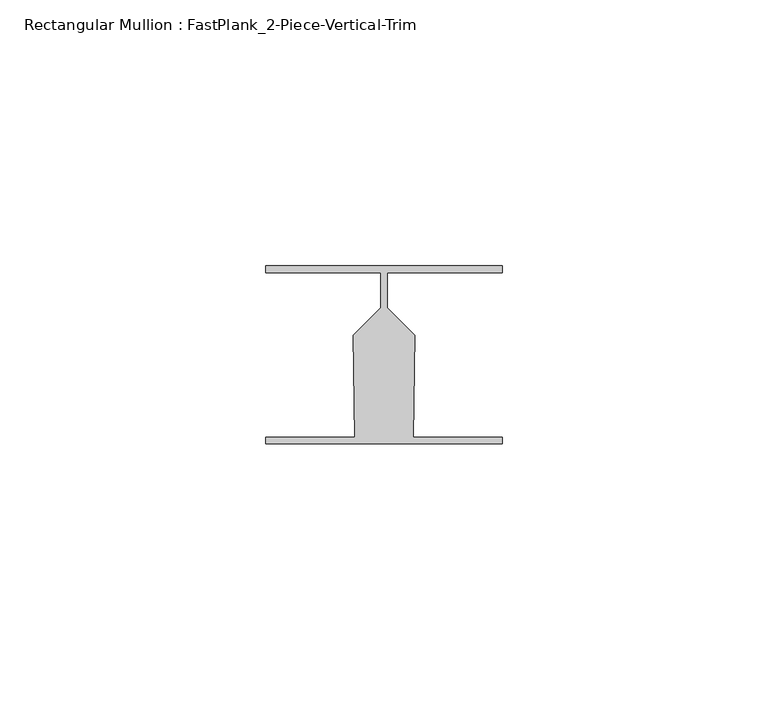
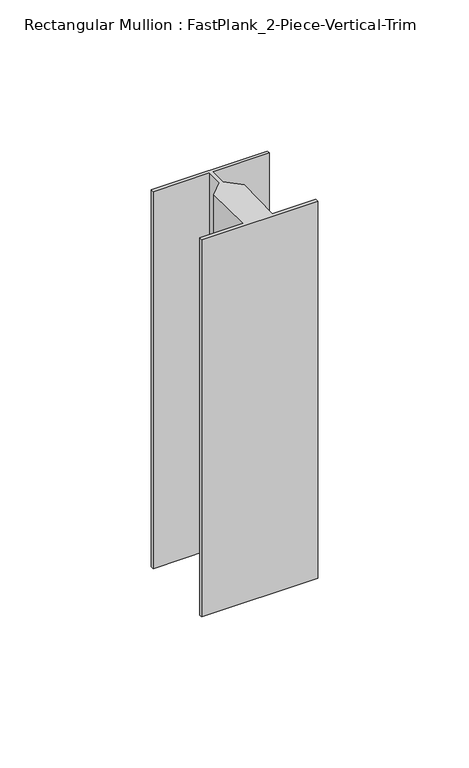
"""IFC4 building model written with IfcOpenShell, lengths in millimetres: member geometry, Rectangular Mullion : FastPlank_2-Piece-Vertical-Trim."""

import ifcopenshell
import ifcopenshell.guid

model = None  # the IFC model being written
_history = None  # IfcOwnerHistory: only IFC2X3 demands one
_inside = {}  # id of a spatial element -> (the spatial element, [elements in it])
_under = {}  # id of a project, library or spatial element -> (it, [spatial elements below it])
_declared = {}  # id of a project -> (the project, [libraries it declares])
_typed = {}  # id of a type object -> (the type object, [elements of that type])
_made_of = {}  # id of a material, layer set ... -> (it, [elements and type objects made of it])


def new_model(schema):
    """Start an empty IFC model of exactly this schema.

    Asked for "IFC4X3", IfcOpenShell would pick the latest addendum, in which some entities
    have other attributes; the version numbers below select the first issue.
    IFC2X3 requires an IfcOwnerHistory on every rooted entity: one is made here for all.
    """
    global model, _history
    if schema == "IFC4X3":
        model = ifcopenshell.file(schema_version=(4, 3, 0, 0))
    else:
        model = ifcopenshell.file(schema=schema)
    _inside.clear()
    _under.clear()
    _declared.clear()
    _typed.clear()
    _made_of.clear()
    _history = None
    if model.schema == "IFC2X3":
        org = make("IfcOrganization", Name="unknown")
        user = make(
            "IfcPersonAndOrganization",
            ThePerson=make("IfcPerson", FamilyName="unknown"),
            TheOrganization=org,
        )
        app = make(
            "IfcApplication",
            ApplicationDeveloper=org,
            Version="unknown",
            ApplicationFullName="unknown",
            ApplicationIdentifier="unknown",
        )
        _history = make(
            "IfcOwnerHistory",
            OwningUser=user,
            OwningApplication=app,
            ChangeAction="ADDED",
            CreationDate=0,
        )
    return model


def make(cls, **values):
    """One entity of the class cls with the attributes given. An attribute that is None is left unset."""
    return model.create_entity(
        cls, **{name: value for name, value in values.items() if value is not None}
    )


def rooted(cls, **values):
    """An entity with a GlobalId (a new one), such as an element, a storey or a relation."""
    return make(cls, GlobalId=ifcopenshell.guid.new(), OwnerHistory=_history, **values)


def si_unit(unit_type, name, prefix=None):
    """IfcSIUnit, for example si_unit("LENGTHUNIT", "METRE", prefix="MILLI")."""
    return make("IfcSIUnit", UnitType=unit_type, Prefix=prefix, Name=name)


def assignment(units):
    """IfcUnitAssignment: the units of a project."""
    return None if units is None else make("IfcUnitAssignment", Units=units)


def point(xyz):
    """IfcCartesianPoint."""
    return None if xyz is None else make("IfcCartesianPoint", Coordinates=xyz)


def direction(xyz):
    """IfcDirection."""
    return None if xyz is None else make("IfcDirection", DirectionRatios=xyz)


def frame(location, z_axis=None, x_axis=None):
    """IfcAxis2Placement3D, a coordinate frame: its origin and axes. An axis left out is left unset."""
    return make(
        "IfcAxis2Placement3D",
        Location=point(location),
        Axis=direction(z_axis),
        RefDirection=direction(x_axis),
    )


def origin():
    """The frame at (0, 0, 0) with its axes left unset."""
    return frame((0.0, 0.0, 0.0))


def place(relative_to, where):
    """IfcLocalPlacement: puts the frame where relative to a parent placement (None: the world)."""
    return make(
        "IfcLocalPlacement", PlacementRelTo=relative_to, RelativePlacement=where
    )


def context(
    kind, dimensions, precision=None, world=None, true_north=None, identifier=None
):
    """IfcGeometricRepresentationContext, for example the 3D "Model" context."""
    return make(
        "IfcGeometricRepresentationContext",
        ContextIdentifier=identifier,
        ContextType=kind,
        CoordinateSpaceDimension=dimensions,
        Precision=precision,
        WorldCoordinateSystem=world,
        TrueNorth=true_north,
    )


def project(units=None, contexts=None):
    """IfcProject with its units and contexts."""
    return rooted(
        "IfcProject",
        Name="project",
        RepresentationContexts=contexts,
        UnitsInContext=assignment(units),
    )


def spatial(cls, under=None, at=None, **own):
    """A site, building, storey or space (cls), placed at a placement, below another one or the project."""
    s = rooted(cls, ObjectPlacement=at, **own)
    if under is not None:
        _under.setdefault(under.id(), (under, []))[1].append(s)
    return s


def polyline(points):
    """IfcPolyline through the points."""
    return make("IfcPolyline", Points=[point(p) for p in points])


def outline(outer, holes=None, kind="AREA"):
    """IfcArbitraryClosedProfileDef: a profile drawn as a closed curve; with holes, ...WithVoids."""
    if holes is None:
        return make("IfcArbitraryClosedProfileDef", ProfileType=kind, OuterCurve=outer)
    return make(
        "IfcArbitraryProfileDefWithVoids",
        ProfileType=kind,
        OuterCurve=outer,
        InnerCurves=holes,
    )


def extrude(swept, where, along, depth):
    """IfcExtrudedAreaSolid: the profile swept, set in the frame where, extruded along a direction by depth."""
    return make(
        "IfcExtrudedAreaSolid",
        SweptArea=swept,
        Position=where,
        ExtrudedDirection=direction(along),
        Depth=depth,
    )


def shape(context_of_items, identifier, shape_type, items):
    """IfcShapeRepresentation: the items that make up one representation, for example the "Body"."""
    return make(
        "IfcShapeRepresentation",
        ContextOfItems=context_of_items,
        RepresentationIdentifier=identifier,
        RepresentationType=shape_type,
        Items=items,
    )


def source(mapping_origin, context_of_items, identifier, shape_type, items):
    """IfcRepresentationMap: a shape defined once, which mapped items show again and again."""
    return make(
        "IfcRepresentationMap",
        MappingOrigin=mapping_origin,
        MappedRepresentation=shape(context_of_items, identifier, shape_type, items),
    )


def transform(
    local_origin,
    x_axis=None,
    y_axis=None,
    z_axis=None,
    scale=None,
    scale2=None,
    scale3=None,
    uniform=True,
):
    """IfcCartesianTransformationOperator3D, or its non-uniform kind. x_axis, y_axis, z_axis: its Axis1, 2, 3."""
    if uniform:
        return make(
            "IfcCartesianTransformationOperator3D",
            Axis1=direction(x_axis),
            Axis2=direction(y_axis),
            LocalOrigin=point(local_origin),
            Scale=scale,
            Axis3=direction(z_axis),
        )
    return make(
        "IfcCartesianTransformationOperator3DnonUniform",
        Axis1=direction(x_axis),
        Axis2=direction(y_axis),
        LocalOrigin=point(local_origin),
        Scale=scale,
        Axis3=direction(z_axis),
        Scale2=scale2,
        Scale3=scale3,
    )


def mapped(mapping_source, mapping_target):
    """IfcMappedItem: shows the shape of a source again, moved by a transform."""
    return make(
        "IfcMappedItem", MappingSource=mapping_source, MappingTarget=mapping_target
    )


def made_of(thing, what):
    """Note that an element or type object is made of a material, layer set ...; save() writes the relation."""
    if what is not None:
        _made_of.setdefault(what.id(), (what, []))[1].append(thing)
    return thing


def element(
    cls,
    number,
    at=None,
    inside=None,
    cuts=None,
    type_object=None,
    material=None,
    context=None,
    identifier="Body",
    shape_type=None,
    held_by="IfcProductDefinitionShape",
    body=None,
    shapes=None,
    **own,
):
    """One element of the class cls, such as IfcWall. Its Tag is "e" and its number.

    at: its placement. inside: the storey or other place that contains it. cuts: it is an
    opening in that element (IfcRelVoidsElement). A single representation is given by context,
    identifier, shape_type and body (its items); several are given by shapes. held_by: the class
    of the entity that holds the representations. save() writes the other relations.
    """
    e = rooted(cls, Tag="e%d" % number, ObjectPlacement=at, **own)
    if body is not None:
        shapes = [shape(context, identifier, shape_type, body)]
    if shapes is not None:
        e.Representation = make(held_by, Representations=shapes)
    if inside is not None:
        _inside.setdefault(inside.id(), (inside, []))[1].append(e)
    if cuts is not None:
        rooted(
            "IfcRelVoidsElement", RelatingBuildingElement=cuts, RelatedOpeningElement=e
        )
    if type_object is not None:
        _typed.setdefault(type_object.id(), (type_object, []))[1].append(e)
    return made_of(e, material)


def aggregate(whole, parts):
    """IfcRelAggregates: a whole, such as a stair, and the parts it consists of."""
    return rooted("IfcRelAggregates", RelatingObject=whole, RelatedObjects=parts)


def save(model, path):
    """Write the relations noted so far, then the file.

    IfcRelAggregates (storeys below a building ...), IfcRelContainedInSpatialStructure (elements
    in a storey), IfcRelDefinesByType, IfcRelAssociatesMaterial and IfcRelDeclares: one each for
    every whole, place, type object, material and project.
    """
    for whole, parts in _under.values():
        aggregate(whole, parts)
    for where, things in _inside.values():
        rooted(
            "IfcRelContainedInSpatialStructure",
            RelatedElements=things,
            RelatingStructure=where,
        )
    for kind, things in _typed.values():
        rooted("IfcRelDefinesByType", RelatedObjects=things, RelatingType=kind)
    for what, things in _made_of.values():
        rooted("IfcRelAssociatesMaterial", RelatedObjects=things, RelatingMaterial=what)
    for by, libraries in _declared.values():
        rooted("IfcRelDeclares", RelatingContext=by, RelatedDefinitions=libraries)
    model.write(path)


def rectangular_mullion_fastplank_2_piece_vertical_trim_f2f3523c(model_context):
    return source(origin(), model_context, "Body", "SweptSolid", [
        extrude(outline(polyline([(22.2251761, 11.8625052), (22.2251761, 10.5625078), (0.6499987, 10.5625078), (0.6499987, 3.992521), (5.8241876, -1.1816679), (5.4899028, -20.332833), (22.2251761, -20.332833), (22.2251761, -21.6328304), (-22.2251761, -21.6328304), (-22.2251761, -20.332833), (-5.4899028, -20.332833), (-5.8241876, -1.1816679), (-0.6499987, 3.992521), (-0.6499987, 10.5625078), (-22.2251761, 10.5625078), (-22.2251761, 11.8625052), (22.2251761, 11.8625052)])), frame((0.0, 0.0, -152.4), z_axis=(0.0, 0.0, 1.0), x_axis=(1.0, 0.0, 0.0)), (0.0, 0.0, 1.0), 152.4),
    ])


if __name__ == "__main__":
    model = new_model("IFC4")
    model_context = context("Model", 3, world=origin())
    ifc_project = project(units=[si_unit("LENGTHUNIT", "METRE", prefix="MILLI")], contexts=[model_context])
    site = spatial("IfcSite", under=ifc_project)
    building = spatial("IfcBuilding", under=site)
    placement = place(None, origin())
    rectangular_mullion_fastplank_2_piece_vertical_trim_shape = rectangular_mullion_fastplank_2_piece_vertical_trim_f2f3523c(model_context)
    element("IfcMember", 1, ObjectType="Rectangular Mullion : FastPlank_2-Piece-Vertical-Trim", at=placement, inside=building, context=model_context, shape_type="MappedRepresentation", body=[
        mapped(rectangular_mullion_fastplank_2_piece_vertical_trim_shape, transform((0.0, 0.0, 0.0), x_axis=(1.0, 0.0, 0.0), y_axis=(0.0, 1.0, 0.0), z_axis=(0.0, 0.0, 1.0))),
    ])
    save(model, "model.ifc")
